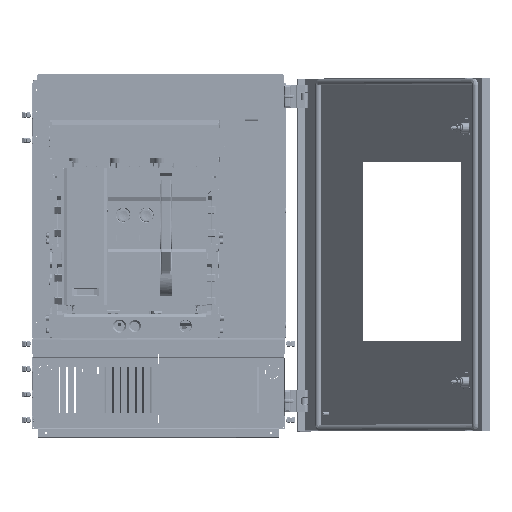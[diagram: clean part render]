
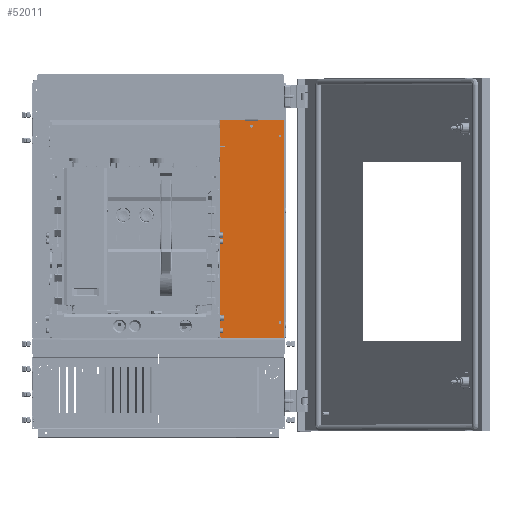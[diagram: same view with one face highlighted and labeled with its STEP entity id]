
A CAD part, top view. The second image highlights one B-rep face of the part: STEP entity #52011.
In plain terms, the highlighted planar face has unit normal (0, 0, 1) as drawn and (0, 0, -1) by its records, which use the part's own axes.
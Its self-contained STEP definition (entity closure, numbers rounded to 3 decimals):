
#50671=CARTESIAN_POINT(' ',(1.5,202.,-1.));
#50676=DIRECTION(' ',(0.,-0.,1.));
#50681=DIRECTION(' ',(-1.,0.,0.));
#50686=AXIS2_PLACEMENT_3D(' ',#50671,#50676,#50681);
#50691=CIRCLE('',#50686,2.75);
#50696=CARTESIAN_POINT(' ',(-1.25,202.,-1.));
#50697=VERTEX_POINT(' ',#50696);
#50701=CARTESIAN_POINT(' ',(4.25,202.,-1.));
#50702=VERTEX_POINT(' ',#50701);
#50706=EDGE_CURVE(' ',#50697,#50702,#50691,.T.);
#50836=DIRECTION(' ',(-0.,0.,-1.));
#50841=CARTESIAN_POINT(' ',(-63.,-220.,-1.));
#50846=DIRECTION(' ',(0.,1.,0.));
#50851=AXIS2_PLACEMENT_3D(' ',#50841,#50836,#50846);
#50856=PLANE('NONE',#50851);
#50861=CARTESIAN_POINT(' ',(-13.5,215.,-1.));
#50866=DIRECTION(' ',(0.707,-0.707,0.));
#50871=VECTOR(' ',#50866,1.);
#50876=LINE('',#50861,#50871);
#50881=CARTESIAN_POINT(' ',(-13.5,215.,-1.));
#50882=VERTEX_POINT(' ',#50881);
#50886=CARTESIAN_POINT(' ',(-11.5,213.,-1.));
#50887=VERTEX_POINT(' ',#50886);
#50891=EDGE_CURVE(' ',#50882,#50887,#50876,.T.);
#50896=ORIENTED_EDGE(' ',*,*,#50891,.T.);
#50901=CARTESIAN_POINT(' ',(-11.5,213.,-1.));
#50906=DIRECTION(' ',(0.,-1.,0.));
#50911=VECTOR(' ',#50906,1.);
#50916=LINE('',#50901,#50911);
#50921=CARTESIAN_POINT(' ',(-11.5,212.,-1.));
#50922=VERTEX_POINT(' ',#50921);
#50926=EDGE_CURVE(' ',#50887,#50922,#50916,.T.);
#50931=ORIENTED_EDGE(' ',*,*,#50926,.T.);
#50936=CARTESIAN_POINT(' ',(-11.5,212.,-1.));
#50941=DIRECTION(' ',(1.,0.,0.));
#50946=VECTOR(' ',#50941,1.);
#50951=LINE('',#50936,#50946);
#50956=CARTESIAN_POINT(' ',(14.5,212.,-1.));
#50957=VERTEX_POINT(' ',#50956);
#50961=EDGE_CURVE(' ',#50922,#50957,#50951,.T.);
#50966=ORIENTED_EDGE(' ',*,*,#50961,.T.);
#50971=CARTESIAN_POINT(' ',(14.5,212.,-1.));
#50976=DIRECTION(' ',(0.,1.,0.));
#50981=VECTOR(' ',#50976,1.);
#50986=LINE('',#50971,#50981);
#50991=CARTESIAN_POINT(' ',(14.5,213.,-1.));
#50992=VERTEX_POINT(' ',#50991);
#50996=EDGE_CURVE(' ',#50957,#50992,#50986,.T.);
#51001=ORIENTED_EDGE(' ',*,*,#50996,.T.);
#51006=CARTESIAN_POINT(' ',(14.5,213.,-1.));
#51011=DIRECTION(' ',(0.707,0.707,0.));
#51016=VECTOR(' ',#51011,1.);
#51021=LINE('',#51006,#51016);
#51026=CARTESIAN_POINT(' ',(16.5,215.,-1.));
#51027=VERTEX_POINT(' ',#51026);
#51031=EDGE_CURVE(' ',#50992,#51027,#51021,.T.);
#51036=ORIENTED_EDGE(' ',*,*,#51031,.T.);
#51041=CARTESIAN_POINT(' ',(61.,215.,-1.));
#51046=DIRECTION(' ',(-1.,0.,0.));
#51051=VECTOR(' ',#51046,1.);
#51056=LINE('',#51041,#51051);
#51061=CARTESIAN_POINT(' ',(61.,215.,-1.));
#51062=VERTEX_POINT(' ',#51061);
#51066=EDGE_CURVE(' ',#51062,#51027,#51056,.T.);
#51071=ORIENTED_EDGE(' ',*,*,#51066,.F.);
#51076=CARTESIAN_POINT(' ',(61.,215.,-1.));
#51081=DIRECTION(' ',(0.707,-0.707,0.));
#51086=VECTOR(' ',#51081,1.);
#51091=LINE('',#51076,#51086);
#51096=CARTESIAN_POINT(' ',(63.,213.,-1.));
#51097=VERTEX_POINT(' ',#51096);
#51101=EDGE_CURVE(' ',#51062,#51097,#51091,.T.);
#51106=ORIENTED_EDGE(' ',*,*,#51101,.T.);
#51111=CARTESIAN_POINT(' ',(63.,-213.,-1.));
#51116=DIRECTION(' ',(0.,1.,0.));
#51121=VECTOR(' ',#51116,1.);
#51126=LINE('',#51111,#51121);
#51131=CARTESIAN_POINT(' ',(63.,-213.,-1.));
#51132=VERTEX_POINT(' ',#51131);
#51136=EDGE_CURVE(' ',#51132,#51097,#51126,.T.);
#51141=ORIENTED_EDGE(' ',*,*,#51136,.F.);
#51146=CARTESIAN_POINT(' ',(63.,-213.,-1.));
#51151=DIRECTION(' ',(-0.707,-0.707,0.));
#51156=VECTOR(' ',#51151,1.);
#51161=LINE('',#51146,#51156);
#51166=CARTESIAN_POINT(' ',(61.,-215.,-1.));
#51167=VERTEX_POINT(' ',#51166);
#51171=EDGE_CURVE(' ',#51132,#51167,#51161,.T.);
#51176=ORIENTED_EDGE(' ',*,*,#51171,.T.);
#51181=CARTESIAN_POINT(' ',(38.,-215.,-1.));
#51186=DIRECTION(' ',(1.,0.,0.));
#51191=VECTOR(' ',#51186,1.);
#51196=LINE('',#51181,#51191);
#51201=CARTESIAN_POINT(' ',(38.,-215.,-1.));
#51202=VERTEX_POINT(' ',#51201);
#51206=EDGE_CURVE(' ',#51202,#51167,#51196,.T.);
#51211=ORIENTED_EDGE(' ',*,*,#51206,.F.);
#51216=CARTESIAN_POINT(' ',(38.,-218.,-1.));
#51221=DIRECTION(' ',(0.,1.,0.));
#51226=VECTOR(' ',#51221,1.);
#51231=LINE('',#51216,#51226);
#51236=CARTESIAN_POINT(' ',(38.,-218.,-1.));
#51237=VERTEX_POINT(' ',#51236);
#51241=EDGE_CURVE(' ',#51237,#51202,#51231,.T.);
#51246=ORIENTED_EDGE(' ',*,*,#51241,.F.);
#51251=CARTESIAN_POINT(' ',(38.,-218.,-1.));
#51256=DIRECTION(' ',(-0.707,-0.707,0.));
#51261=VECTOR(' ',#51256,1.);
#51266=LINE('',#51251,#51261);
#51271=CARTESIAN_POINT(' ',(36.,-220.,-1.));
#51272=VERTEX_POINT(' ',#51271);
#51276=EDGE_CURVE(' ',#51237,#51272,#51266,.T.);
#51281=ORIENTED_EDGE(' ',*,*,#51276,.T.);
#51286=CARTESIAN_POINT(' ',(30.,-220.,-1.));
#51291=DIRECTION(' ',(1.,0.,0.));
#51296=VECTOR(' ',#51291,1.);
#51301=LINE('',#51286,#51296);
#51306=CARTESIAN_POINT(' ',(30.,-220.,-1.));
#51307=VERTEX_POINT(' ',#51306);
#51311=EDGE_CURVE(' ',#51307,#51272,#51301,.T.);
#51316=ORIENTED_EDGE(' ',*,*,#51311,.F.);
#51321=CARTESIAN_POINT(' ',(30.,-220.,-1.));
#51326=DIRECTION(' ',(-0.707,0.707,0.));
#51331=VECTOR(' ',#51326,1.);
#51336=LINE('',#51321,#51331);
#51341=CARTESIAN_POINT(' ',(28.,-218.,-1.));
#51342=VERTEX_POINT(' ',#51341);
#51346=EDGE_CURVE(' ',#51307,#51342,#51336,.T.);
#51351=ORIENTED_EDGE(' ',*,*,#51346,.T.);
#51356=CARTESIAN_POINT(' ',(28.,-215.,-1.));
#51361=DIRECTION(' ',(0.,-1.,0.));
#51366=VECTOR(' ',#51361,1.);
#51371=LINE('',#51356,#51366);
#51376=CARTESIAN_POINT(' ',(28.,-215.,-1.));
#51377=VERTEX_POINT(' ',#51376);
#51381=EDGE_CURVE(' ',#51377,#51342,#51371,.T.);
#51386=ORIENTED_EDGE(' ',*,*,#51381,.F.);
#51391=CARTESIAN_POINT(' ',(-28.,-215.,-1.));
#51396=DIRECTION(' ',(1.,0.,0.));
#51401=VECTOR(' ',#51396,1.);
#51406=LINE('',#51391,#51401);
#51411=CARTESIAN_POINT(' ',(-28.,-215.,-1.));
#51412=VERTEX_POINT(' ',#51411);
#51416=EDGE_CURVE(' ',#51412,#51377,#51406,.T.);
#51421=ORIENTED_EDGE(' ',*,*,#51416,.F.);
#51426=CARTESIAN_POINT(' ',(-28.,-218.,-1.));
#51431=DIRECTION(' ',(0.,1.,0.));
#51436=VECTOR(' ',#51431,1.);
#51441=LINE('',#51426,#51436);
#51446=CARTESIAN_POINT(' ',(-28.,-218.,-1.));
#51447=VERTEX_POINT(' ',#51446);
#51451=EDGE_CURVE(' ',#51447,#51412,#51441,.T.);
#51456=ORIENTED_EDGE(' ',*,*,#51451,.F.);
#51461=CARTESIAN_POINT(' ',(-28.,-218.,-1.));
#51466=DIRECTION(' ',(-0.707,-0.707,0.));
#51471=VECTOR(' ',#51466,1.);
#51476=LINE('',#51461,#51471);
#51481=CARTESIAN_POINT(' ',(-30.,-220.,-1.));
#51482=VERTEX_POINT(' ',#51481);
#51486=EDGE_CURVE(' ',#51447,#51482,#51476,.T.);
#51491=ORIENTED_EDGE(' ',*,*,#51486,.T.);
#51496=CARTESIAN_POINT(' ',(-36.,-220.,-1.));
#51501=DIRECTION(' ',(1.,0.,0.));
#51506=VECTOR(' ',#51501,1.);
#51511=LINE('',#51496,#51506);
#51516=CARTESIAN_POINT(' ',(-36.,-220.,-1.));
#51517=VERTEX_POINT(' ',#51516);
#51521=EDGE_CURVE(' ',#51517,#51482,#51511,.T.);
#51526=ORIENTED_EDGE(' ',*,*,#51521,.F.);
#51531=CARTESIAN_POINT(' ',(-36.,-220.,-1.));
#51536=DIRECTION(' ',(-0.707,0.707,0.));
#51541=VECTOR(' ',#51536,1.);
#51546=LINE('',#51531,#51541);
#51551=CARTESIAN_POINT(' ',(-38.,-218.,-1.));
#51552=VERTEX_POINT(' ',#51551);
#51556=EDGE_CURVE(' ',#51517,#51552,#51546,.T.);
#51561=ORIENTED_EDGE(' ',*,*,#51556,.T.);
#51566=CARTESIAN_POINT(' ',(-38.,-215.,-1.));
#51571=DIRECTION(' ',(0.,-1.,0.));
#51576=VECTOR(' ',#51571,1.);
#51581=LINE('',#51566,#51576);
#51586=CARTESIAN_POINT(' ',(-38.,-215.,-1.));
#51587=VERTEX_POINT(' ',#51586);
#51591=EDGE_CURVE(' ',#51587,#51552,#51581,.T.);
#51596=ORIENTED_EDGE(' ',*,*,#51591,.F.);
#51601=CARTESIAN_POINT(' ',(-61.,-215.,-1.));
#51606=DIRECTION(' ',(1.,0.,0.));
#51611=VECTOR(' ',#51606,1.);
#51616=LINE('',#51601,#51611);
#51621=CARTESIAN_POINT(' ',(-61.,-215.,-1.));
#51622=VERTEX_POINT(' ',#51621);
#51626=EDGE_CURVE(' ',#51622,#51587,#51616,.T.);
#51631=ORIENTED_EDGE(' ',*,*,#51626,.F.);
#51636=CARTESIAN_POINT(' ',(-61.,-215.,-1.));
#51641=DIRECTION(' ',(-0.707,0.707,0.));
#51646=VECTOR(' ',#51641,1.);
#51651=LINE('',#51636,#51646);
#51656=CARTESIAN_POINT(' ',(-63.,-213.,-1.));
#51657=VERTEX_POINT(' ',#51656);
#51661=EDGE_CURVE(' ',#51622,#51657,#51651,.T.);
#51666=ORIENTED_EDGE(' ',*,*,#51661,.T.);
#51671=CARTESIAN_POINT(' ',(-63.,213.,-1.));
#51676=DIRECTION(' ',(0.,-1.,0.));
#51681=VECTOR(' ',#51676,1.);
#51686=LINE('',#51671,#51681);
#51691=CARTESIAN_POINT(' ',(-63.,213.,-1.));
#51692=VERTEX_POINT(' ',#51691);
#51696=EDGE_CURVE(' ',#51692,#51657,#51686,.T.);
#51701=ORIENTED_EDGE(' ',*,*,#51696,.F.);
#51706=CARTESIAN_POINT(' ',(-63.,213.,-1.));
#51711=DIRECTION(' ',(0.707,0.707,0.));
#51716=VECTOR(' ',#51711,1.);
#51721=LINE('',#51706,#51716);
#51726=CARTESIAN_POINT(' ',(-61.,215.,-1.));
#51727=VERTEX_POINT(' ',#51726);
#51731=EDGE_CURVE(' ',#51692,#51727,#51721,.T.);
#51736=ORIENTED_EDGE(' ',*,*,#51731,.T.);
#51741=CARTESIAN_POINT(' ',(-13.5,215.,-1.));
#51746=DIRECTION(' ',(-1.,0.,0.));
#51751=VECTOR(' ',#51746,1.);
#51756=LINE('',#51741,#51751);
#51761=EDGE_CURVE(' ',#50882,#51727,#51756,.T.);
#51766=ORIENTED_EDGE(' ',*,*,#51761,.F.);
#51771=EDGE_LOOP(' ',(#50896,#50931,#50966,#51001,#51036,#51071,#51106,#51141,#51176,#51211,#51246,#51281,#51316,#51351,#51386,#51421,#51456,#51491,#51526,#51561,#51596,#51631,#51666,#51701,#51736,#51766));
#51776=FACE_OUTER_BOUND(' ',#51771,.T.);
#51781=CARTESIAN_POINT(' ',(1.5,202.,-1.));
#51786=DIRECTION(' ',(0.,0.,1.));
#51791=DIRECTION(' ',(1.,0.,0.));
#51796=AXIS2_PLACEMENT_3D(' ',#51781,#51786,#51791);
#51801=CIRCLE('',#51796,2.75);
#51806=EDGE_CURVE(' ',#50702,#50697,#51801,.T.);
#51811=ORIENTED_EDGE(' ',*,*,#51806,.T.);
#51816=ORIENTED_EDGE(' ',*,*,#50706,.T.);
#51821=EDGE_LOOP(' ',(#51811,#51816));
#51826=FACE_BOUND(' ',#51821,.T.);
#51831=CARTESIAN_POINT(' ',(-54.5,182.5,-1.));
#51836=DIRECTION(' ',(0.,0.,1.));
#51841=DIRECTION(' ',(1.,0.,0.));
#51846=AXIS2_PLACEMENT_3D(' ',#51831,#51836,#51841);
#51851=CIRCLE('',#51846,2.75);
#51856=CARTESIAN_POINT(' ',(-51.75,182.5,-1.));
#51857=VERTEX_POINT(' ',#51856);
#51861=CARTESIAN_POINT(' ',(-57.25,182.5,-1.));
#51862=VERTEX_POINT(' ',#51861);
#51866=EDGE_CURVE(' ',#51857,#51862,#51851,.T.);
#51871=ORIENTED_EDGE(' ',*,*,#51866,.T.);
#51876=CARTESIAN_POINT(' ',(-54.5,182.5,-1.));
#51881=DIRECTION(' ',(0.,-0.,1.));
#51886=DIRECTION(' ',(-1.,0.,0.));
#51891=AXIS2_PLACEMENT_3D(' ',#51876,#51881,#51886);
#51896=CIRCLE('',#51891,2.75);
#51901=EDGE_CURVE(' ',#51862,#51857,#51896,.T.);
#51906=ORIENTED_EDGE(' ',*,*,#51901,.T.);
#51911=EDGE_LOOP(' ',(#51871,#51906));
#51916=FACE_BOUND(' ',#51911,.T.);
#51921=CARTESIAN_POINT(' ',(-54.5,-185.,-1.));
#51926=DIRECTION(' ',(0.,0.,1.));
#51931=DIRECTION(' ',(1.,0.,0.));
#51936=AXIS2_PLACEMENT_3D(' ',#51921,#51926,#51931);
#51941=CIRCLE('',#51936,2.75);
#51946=CARTESIAN_POINT(' ',(-51.75,-185.,-1.));
#51947=VERTEX_POINT(' ',#51946);
#51951=CARTESIAN_POINT(' ',(-57.25,-185.,-1.));
#51952=VERTEX_POINT(' ',#51951);
#51956=EDGE_CURVE(' ',#51947,#51952,#51941,.T.);
#51961=ORIENTED_EDGE(' ',*,*,#51956,.T.);
#51966=CARTESIAN_POINT(' ',(-54.5,-185.,-1.));
#51971=DIRECTION(' ',(0.,-0.,1.));
#51976=DIRECTION(' ',(-1.,0.,0.));
#51981=AXIS2_PLACEMENT_3D(' ',#51966,#51971,#51976);
#51986=CIRCLE('',#51981,2.75);
#51991=EDGE_CURVE(' ',#51952,#51947,#51986,.T.);
#51996=ORIENTED_EDGE(' ',*,*,#51991,.T.);
#52001=EDGE_LOOP(' ',(#51961,#51996));
#52006=FACE_BOUND(' ',#52001,.T.);
#52011=ADVANCED_FACE('NONE',(#51776,#51826,#51916,#52006),#50856,.T.);
